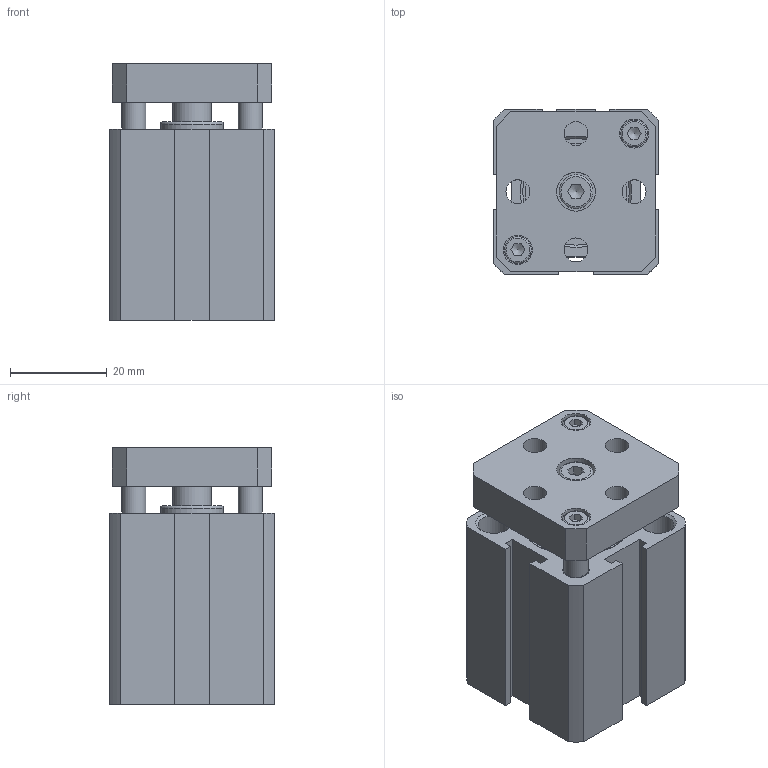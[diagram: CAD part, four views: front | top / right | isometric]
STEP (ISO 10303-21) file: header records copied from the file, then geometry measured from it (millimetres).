
FILE_DESCRIPTION((''),'2;1');
FILE_NAME('I:\3D電子目錄\氣缸\JTD\JTD\JTD20\JTD20x20.stp','2007-08-09T19:37:35',('Administrator'),(''),'Autodesk Inventor 11','Autodesk Inventor 11','');
FILE_SCHEMA(('AUTOMOTIVE_DESIGN { 1 0 10303 214 1 1 1 1 }'));
Length unit declared in the file: millimetre
Products named in the file (5): JTD20; R 形環 23; ISO 4762 M4 x 10; ISO 4762 M3 x 8
Assembly tree (6 placements, depth 2):
  JTD20
    JTD20
    R 形環 23  x2
    ISO 4762 M4 x 10
    ISO 4762 M3 x 8  x2
Bounding box: 34 x 34 x 53 mm (x, y, z)
Volume: 43812.6 mm3; surface area: 18419.1 mm2
Topology: 6 solids, 6 shells, 185 faces, 420 edges, 275 vertices
Faces by surface type: plane 99, cylinder 51, bspline 16, cone 14, torus 5
Full cylindrical faces by diameter (mm): 1.5 x6, 3 x2, 4 x1, 4.3 x2, 4.576 x2, 5 x2, 5.5 x4, 6.5 x4, 7 x1, 8 x1, 13 x2, 22 x4, 23.2 x2
Entity records: 4480 total; most frequent: CARTESIAN_POINT 974, DIRECTION 708, ORIENTED_EDGE 592, EDGE_CURVE 296, AXIS2_PLACEMENT_3D 270, EDGE_LOOP 262, VERTEX_POINT 228, VECTOR 168
